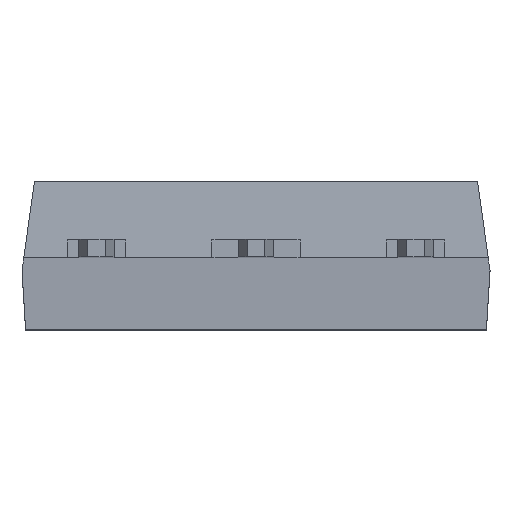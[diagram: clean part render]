
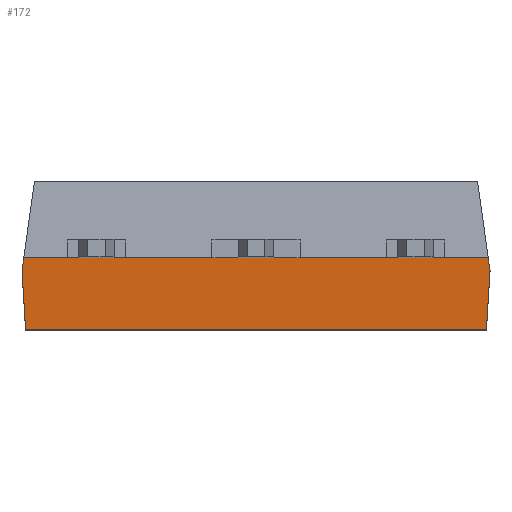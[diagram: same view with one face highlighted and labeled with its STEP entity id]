
A CAD part, top view. The second image highlights one B-rep face of the part: STEP entity #172.
In plain terms, the highlighted planar face has unit normal (0, -0.061, 0.998).
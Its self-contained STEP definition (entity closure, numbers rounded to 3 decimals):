
#9 = EDGE_CURVE ( 'NONE', #717, #3971, #971, .T. ) ;
#124 = CARTESIAN_POINT ( 'NONE',  ( 7.635, 2.385, 10.594 ) ) ;
#144 = CARTESIAN_POINT ( 'NONE',  ( -7.809, -2.627, 10.288 ) ) ;
#172 = ADVANCED_FACE ( 'NONE', ( #1524 ), #3098, .T. ) ;
#344 = DIRECTION ( 'NONE',  ( 0.139, 0.988, 0.06 ) ) ;
#353 = VECTOR ( 'NONE', #344, 1000. ) ;
#629 = CARTESIAN_POINT ( 'NONE',  ( 7.97, 0., 10.449 ) ) ;
#717 = VERTEX_POINT ( 'NONE', #787 ) ;
#787 = CARTESIAN_POINT ( 'NONE',  ( -7.97, 0., 10.449 ) ) ;
#848 = EDGE_LOOP ( 'NONE', ( #3730, #4029, #2798, #1315, #2567, #1708 ) ) ;
#927 = LINE ( 'NONE', #1216, #3870 ) ;
#971 = LINE ( 'NONE', #1596, #353 ) ;
#979 = LINE ( 'NONE', #1061, #1928 ) ;
#1061 = CARTESIAN_POINT ( 'NONE',  ( -7.848, -2., 10.326 ) ) ;
#1127 = DIRECTION ( 'NONE',  ( 0., -0.061, 0.998 ) ) ;
#1216 = CARTESIAN_POINT ( 'NONE',  ( 0., 0.431, 10.475 ) ) ;
#1250 = CARTESIAN_POINT ( 'NONE',  ( 7.809, -2.627, 10.288 ) ) ;
#1315 = ORIENTED_EDGE ( 'NONE', *, *, #3845, .F. ) ;
#1397 = VERTEX_POINT ( 'NONE', #3995 ) ;
#1499 = CARTESIAN_POINT ( 'NONE',  ( -7.909, 0.431, 10.475 ) ) ;
#1524 = FACE_OUTER_BOUND ( 'NONE', #848, .T. ) ;
#1556 = VERTEX_POINT ( 'NONE', #629 ) ;
#1596 = CARTESIAN_POINT ( 'NONE',  ( -7.635, 2.385, 10.594 ) ) ;
#1692 = DIRECTION ( 'NONE',  ( -0.061, 0.996, 0.061 ) ) ;
#1708 = ORIENTED_EDGE ( 'NONE', *, *, #1919, .F. ) ;
#1722 = EDGE_CURVE ( 'NONE', #1397, #1556, #3267, .T. ) ;
#1919 = EDGE_CURVE ( 'NONE', #1556, #3605, #3223, .T. ) ;
#1928 = VECTOR ( 'NONE', #3904, 1000. ) ;
#1998 = EDGE_CURVE ( 'NONE', #3605, #3810, #979, .T. ) ;
#2035 = CARTESIAN_POINT ( 'NONE',  ( -7.848, -2., 10.326 ) ) ;
#2056 = VECTOR ( 'NONE', #2885, 1000. ) ;
#2073 = LINE ( 'NONE', #144, #3215 ) ;
#2097 = CARTESIAN_POINT ( 'NONE',  ( 0., -2., 10.326 ) ) ;
#2254 = VECTOR ( 'NONE', #3656, 1000. ) ;
#2409 = DIRECTION ( 'NONE',  ( 1., 0., 0. ) ) ;
#2567 = ORIENTED_EDGE ( 'NONE', *, *, #1998, .F. ) ;
#2798 = ORIENTED_EDGE ( 'NONE', *, *, #9, .F. ) ;
#2885 = DIRECTION ( 'NONE',  ( -0.061, -0.996, -0.061 ) ) ;
#3098 = PLANE ( 'NONE',  #3273 ) ;
#3215 = VECTOR ( 'NONE', #1692, 1000. ) ;
#3223 = LINE ( 'NONE', #1250, #2056 ) ;
#3267 = LINE ( 'NONE', #124, #2254 ) ;
#3273 = AXIS2_PLACEMENT_3D ( 'NONE', #2097, #1127, #4028 ) ;
#3319 = EDGE_CURVE ( 'NONE', #3971, #1397, #927, .T. ) ;
#3503 = CARTESIAN_POINT ( 'NONE',  ( 7.848, -2., 10.326 ) ) ;
#3605 = VERTEX_POINT ( 'NONE', #3503 ) ;
#3656 = DIRECTION ( 'NONE',  ( 0.139, -0.988, -0.06 ) ) ;
#3730 = ORIENTED_EDGE ( 'NONE', *, *, #1722, .F. ) ;
#3810 = VERTEX_POINT ( 'NONE', #2035 ) ;
#3845 = EDGE_CURVE ( 'NONE', #3810, #717, #2073, .T. ) ;
#3870 = VECTOR ( 'NONE', #2409, 1000. ) ;
#3904 = DIRECTION ( 'NONE',  ( -1., 0., 0. ) ) ;
#3971 = VERTEX_POINT ( 'NONE', #1499 ) ;
#3995 = CARTESIAN_POINT ( 'NONE',  ( 7.909, 0.431, 10.475 ) ) ;
#4028 = DIRECTION ( 'NONE',  ( -1., 0., 0. ) ) ;
#4029 = ORIENTED_EDGE ( 'NONE', *, *, #3319, .F. ) ;
